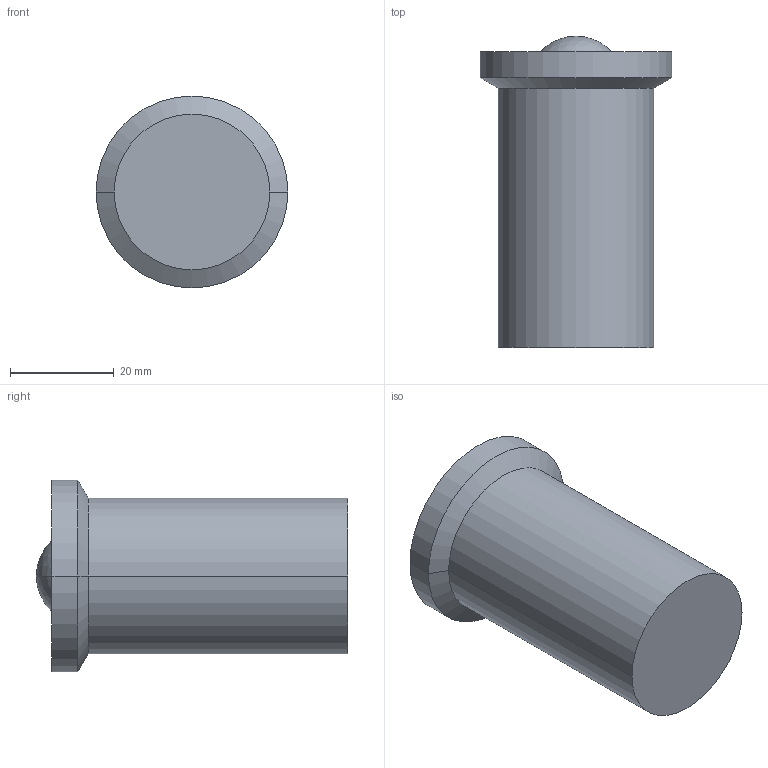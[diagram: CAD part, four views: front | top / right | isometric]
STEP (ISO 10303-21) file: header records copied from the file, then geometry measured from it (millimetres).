
FILE_DESCRIPTION (( 'STEP AP203' ), '1' );
FILE_NAME ('pv50cam.STEP', '2015-06-07T15:33:24', ( '' ), ( '' ), 'SwSTEP 2.0', 'SolidWorks 2015', '' );
FILE_SCHEMA (( 'CONFIG_CONTROL_DESIGN' ));
Length unit declared in the file: millimetre
Products named in the file (1): pv50cam
Bounding box: 37 x 60 x 37 mm (x, y, z)
Volume: 42732.9 mm3; surface area: 7527.3 mm2
Topology: 1 solids, 1 shells, 10 faces, 18 edges, 11 vertices
Faces by surface type: cylinder 4, cone 2, sphere 2, plane 2
Entity records: 327 total; most frequent: DIRECTION 52, CARTESIAN_POINT 40, ORIENTED_EDGE 36, AXIS2_PLACEMENT_3D 23, EDGE_CURVE 18, CIRCLE 12, EDGE_LOOP 11, VERTEX_POINT 11
